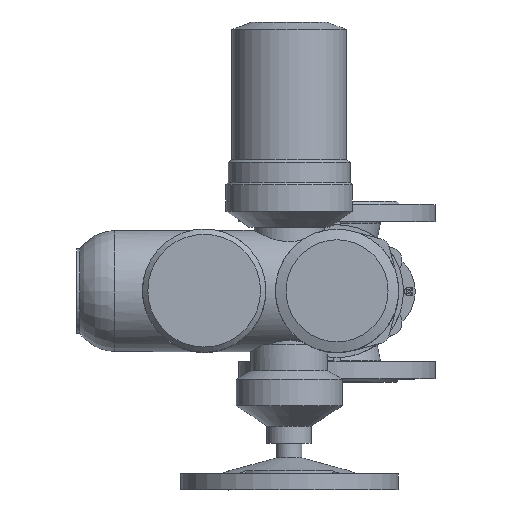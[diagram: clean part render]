
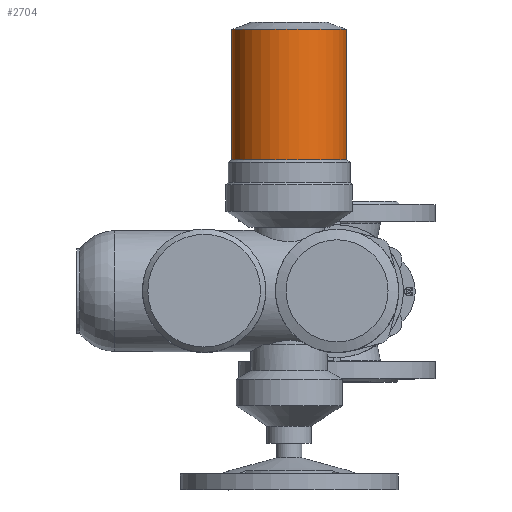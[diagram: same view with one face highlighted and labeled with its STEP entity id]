
A CAD part, top view. The second image highlights one B-rep face of the part: STEP entity #2704.
In plain terms, the highlighted cylindrical face has radius 54 mm (diameter 108 mm), a full revolution.
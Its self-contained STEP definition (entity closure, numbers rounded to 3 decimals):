
#2704=ADVANCED_FACE('',(#5251,#5253),#5255,.T.);
#5251=FACE_OUTER_BOUND('',#5252,.T.);
#5252=EDGE_LOOP('',(#6946));
#5253=FACE_OUTER_BOUND('',#5254,.T.);
#5254=EDGE_LOOP('',(#6947));
#5255=CYLINDRICAL_SURFACE('',#5256,54.);
#5256=AXIS2_PLACEMENT_3D('',#5257,#5258,#5259);
#5257=CARTESIAN_POINT('',(-45.,246.085,368.));
#5258=DIRECTION('',(0.,-1.,0.));
#5259=DIRECTION('',(0.,0.,1.));
#6946=ORIENTED_EDGE('',*,*,#7818,.T.);
#6947=ORIENTED_EDGE('',*,*,#7816,.F.);
#7816=EDGE_CURVE('',#9124,#9124,#9125,.T.);
#7818=EDGE_CURVE('',#9128,#9128,#9129,.T.);
#9124=VERTEX_POINT('',#14630);
#9125=CIRCLE('',#14631,54.);
#9128=VERTEX_POINT('',#14640);
#9129=CIRCLE('',#14641,54.);
#14630=CARTESIAN_POINT('',(-45.,123.505,422.));
#14631=AXIS2_PLACEMENT_3D('',#14632,#14633,#14634);
#14632=CARTESIAN_POINT('',(-45.,123.505,368.));
#14633=DIRECTION('',(0.,-1.,0.));
#14634=DIRECTION('',(0.,0.,1.));
#14640=CARTESIAN_POINT('',(-45.,246.085,422.));
#14641=AXIS2_PLACEMENT_3D('',#14642,#14643,#14644);
#14642=CARTESIAN_POINT('',(-45.,246.085,368.));
#14643=DIRECTION('',(0.,-1.,0.));
#14644=DIRECTION('',(0.,0.,1.));
